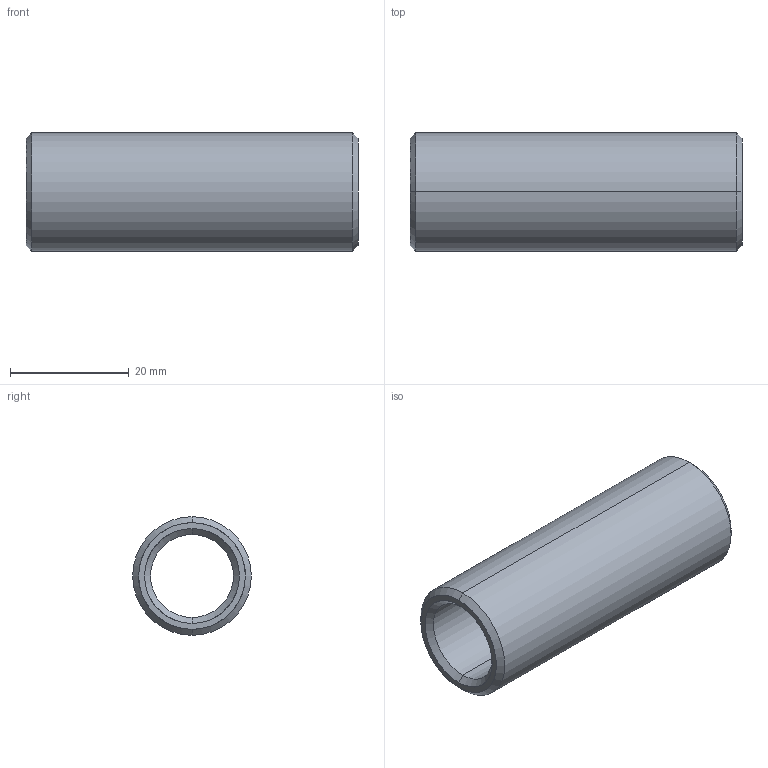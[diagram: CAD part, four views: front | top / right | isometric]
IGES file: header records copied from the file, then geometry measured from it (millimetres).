
Start section: START RECORD GO HERE.
Global section: file name: 352-14X56.igs; native system: DASSAULT SYSTEMES CATIA V5 R20 - www.3ds.com; preprocessor: CATIA Version 5 Release 20 ; author: Utente; organization: NB04-ASUS; date: 20210410.111312; units: millimetre
Bounding box: 56 x 20 x 20 mm (x, y, z)
Surface area: 6182.9 mm2 (no closed solid volume)
Topology: 0 solids, 0 shells, 14 faces, 88 edges, 88 vertices
Faces by surface type: revolution 12, plane 2
